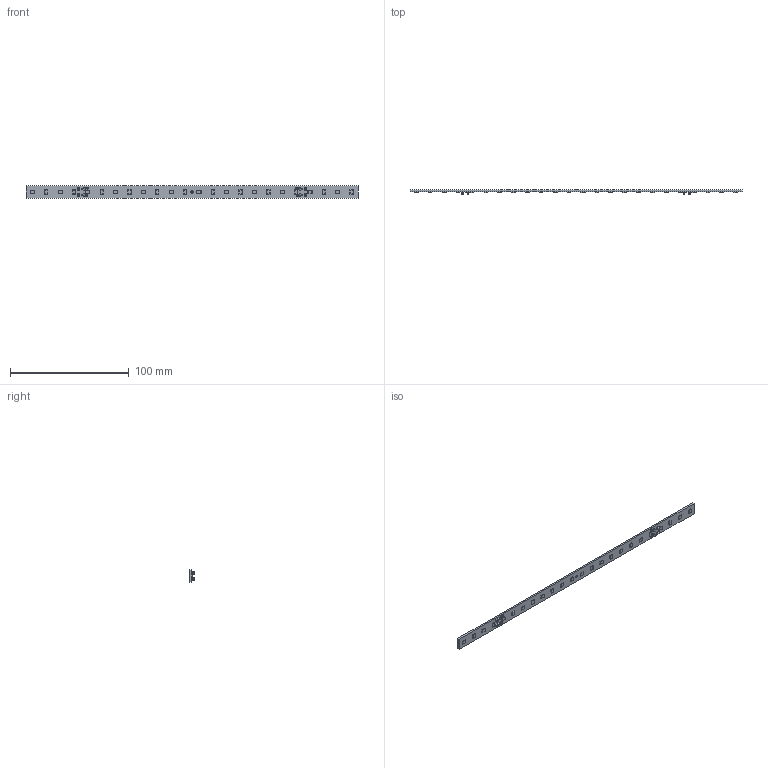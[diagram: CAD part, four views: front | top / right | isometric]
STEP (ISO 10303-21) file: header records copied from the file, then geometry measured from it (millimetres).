
FILE_DESCRIPTION(/* description */ ('Unknown'),/* implementation_level */ '2;1');
FILE_NAME(/* name */ 'LinLED 279x10.5mm 1100lm 4C 36V DALINE-10 sh-000 2024-09-10',/* time_stamp */ '2024-09-10T08:05:21+02:00',/* author */ ('Unknown'),/* organization */ ('Unknown'),/* preprocessor_version */ 'ST-DEVELOPER v18.102',/* originating_system */ 'Solid Edge',/* authorisation */ 'Unknown');
FILE_SCHEMA (('AUTOMOTIVE_DESIGN {1 0 10303 214 3 1 1}'));
Length unit declared in the file: millimetre
Products named in the file (1): LinLED 279x10.5mm 1100lm 4C 36V DALINE-10 sh-000 2024-09-10
Bounding box: 279 x 3.6 x 10.5 mm (x, y, z)
Volume: 4848.6 mm3; surface area: 7160.4 mm2
Topology: 1 solids, 1 shells, 727 faces, 1971 edges, 1310 vertices
Faces by surface type: plane 670, cylinder 57
Full cylindrical faces by diameter (mm): 2 x1
Entity records: 27671 total; most frequent: CARTESIAN_POINT 4588, ORIENTED_EDGE 3940, DIRECTION 3284, EDGE_CURVE 1970, LINE 1656, VECTOR 1656, VERTEX_POINT 1310, AXIS2_PLACEMENT_3D 814
